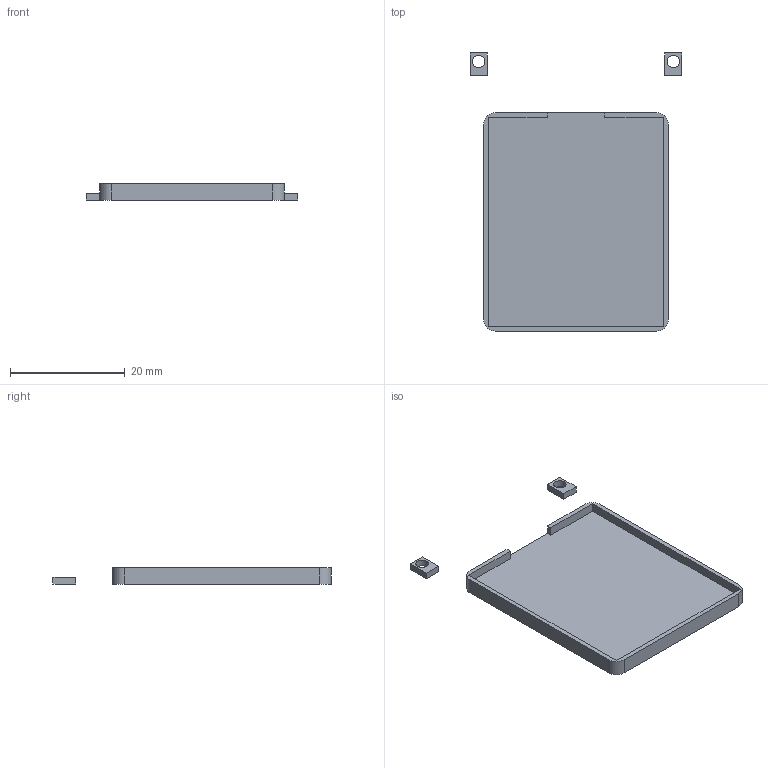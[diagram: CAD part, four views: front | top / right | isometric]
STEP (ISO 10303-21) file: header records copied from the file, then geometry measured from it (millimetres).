
FILE_DESCRIPTION(('Open CASCADE Model'),'2;1');
FILE_NAME('Open CASCADE Shape Model','2026-09-12T18:26:44',('Author'),( 'Open CASCADE'),'Open CASCADE STEP processor 7.9','Open CASCADE 7.9' ,'Unknown');
FILE_SCHEMA(('AUTOMOTIVE_DESIGN { 1 0 10303 214 1 1 1 1 }'));
Length unit declared in the file: millimetre
Products named in the file (2): =>[0:1:1:2]; battery-tray
Assembly tree (1 placements, depth 2):
  =>[0:1:1:2]
    battery-tray
Bounding box: 37 x 48.55 x 2.8 mm (x, y, z)
Volume: 1645.3 mm3; surface area: 3099.1 mm2
Topology: 3 solids, 3 shells, 32 faces, 78 edges, 52 vertices
Faces by surface type: plane 26, cylinder 6
Full cylindrical faces by diameter (mm): 2.2 x2
Entity records: 1992 total; most frequent: CARTESIAN_POINT 396, DIRECTION 278, LINE 182, VECTOR 182, ORIENTED_EDGE 156, PCURVE 156, DEFINITIONAL_REPRESENTATION 156, EDGE_CURVE 78
